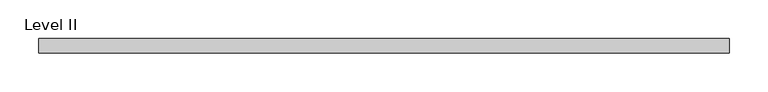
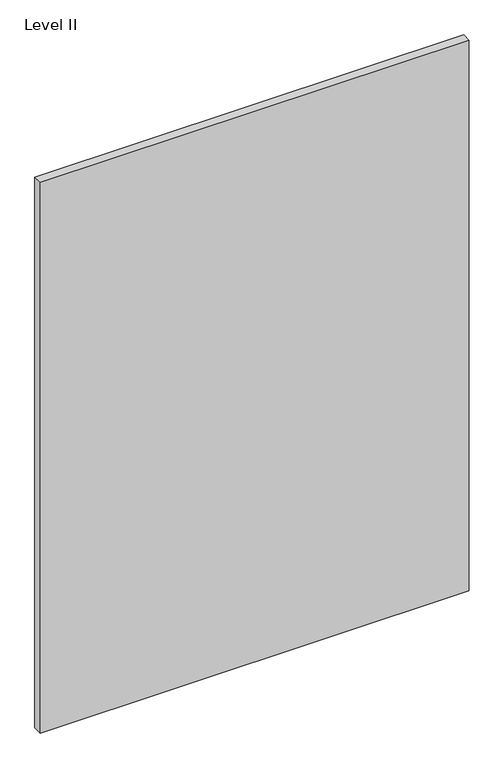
"""IFC4 building model written with IfcOpenShell, lengths in millimetres: proxy geometry, Panel-Fascia-Teknion-Altos-Standard : Level II."""

import ifcopenshell
import ifcopenshell.guid

model = None  # the IFC model being written
_history = None  # IfcOwnerHistory: only IFC2X3 demands one
_inside = {}  # id of a spatial element -> (the spatial element, [elements in it])
_under = {}  # id of a project, library or spatial element -> (it, [spatial elements below it])
_declared = {}  # id of a project -> (the project, [libraries it declares])
_typed = {}  # id of a type object -> (the type object, [elements of that type])
_made_of = {}  # id of a material, layer set ... -> (it, [elements and type objects made of it])


def new_model(schema):
    """Start an empty IFC model of exactly this schema.

    Asked for "IFC4X3", IfcOpenShell would pick the latest addendum, in which some entities
    have other attributes; the version numbers below select the first issue.
    IFC2X3 requires an IfcOwnerHistory on every rooted entity: one is made here for all.
    """
    global model, _history
    if schema == "IFC4X3":
        model = ifcopenshell.file(schema_version=(4, 3, 0, 0))
    else:
        model = ifcopenshell.file(schema=schema)
    _inside.clear()
    _under.clear()
    _declared.clear()
    _typed.clear()
    _made_of.clear()
    _history = None
    if model.schema == "IFC2X3":
        org = make("IfcOrganization", Name="unknown")
        user = make(
            "IfcPersonAndOrganization",
            ThePerson=make("IfcPerson", FamilyName="unknown"),
            TheOrganization=org,
        )
        app = make(
            "IfcApplication",
            ApplicationDeveloper=org,
            Version="unknown",
            ApplicationFullName="unknown",
            ApplicationIdentifier="unknown",
        )
        _history = make(
            "IfcOwnerHistory",
            OwningUser=user,
            OwningApplication=app,
            ChangeAction="ADDED",
            CreationDate=0,
        )
    return model


def make(cls, **values):
    """One entity of the class cls with the attributes given. An attribute that is None is left unset."""
    return model.create_entity(
        cls, **{name: value for name, value in values.items() if value is not None}
    )


def rooted(cls, **values):
    """An entity with a GlobalId (a new one), such as an element, a storey or a relation."""
    return make(cls, GlobalId=ifcopenshell.guid.new(), OwnerHistory=_history, **values)


def si_unit(unit_type, name, prefix=None):
    """IfcSIUnit, for example si_unit("LENGTHUNIT", "METRE", prefix="MILLI")."""
    return make("IfcSIUnit", UnitType=unit_type, Prefix=prefix, Name=name)


def assignment(units):
    """IfcUnitAssignment: the units of a project."""
    return None if units is None else make("IfcUnitAssignment", Units=units)


def point(xyz):
    """IfcCartesianPoint."""
    return None if xyz is None else make("IfcCartesianPoint", Coordinates=xyz)


def direction(xyz):
    """IfcDirection."""
    return None if xyz is None else make("IfcDirection", DirectionRatios=xyz)


def frame(location, z_axis=None, x_axis=None):
    """IfcAxis2Placement3D, a coordinate frame: its origin and axes. An axis left out is left unset."""
    return make(
        "IfcAxis2Placement3D",
        Location=point(location),
        Axis=direction(z_axis),
        RefDirection=direction(x_axis),
    )


def origin():
    """The frame at (0, 0, 0) with its axes left unset."""
    return frame((0.0, 0.0, 0.0))


def place(relative_to, where):
    """IfcLocalPlacement: puts the frame where relative to a parent placement (None: the world)."""
    return make(
        "IfcLocalPlacement", PlacementRelTo=relative_to, RelativePlacement=where
    )


def context(
    kind, dimensions, precision=None, world=None, true_north=None, identifier=None
):
    """IfcGeometricRepresentationContext, for example the 3D "Model" context."""
    return make(
        "IfcGeometricRepresentationContext",
        ContextIdentifier=identifier,
        ContextType=kind,
        CoordinateSpaceDimension=dimensions,
        Precision=precision,
        WorldCoordinateSystem=world,
        TrueNorth=true_north,
    )


def project(units=None, contexts=None):
    """IfcProject with its units and contexts."""
    return rooted(
        "IfcProject",
        Name="project",
        RepresentationContexts=contexts,
        UnitsInContext=assignment(units),
    )


def spatial(cls, under=None, at=None, **own):
    """A site, building, storey or space (cls), placed at a placement, below another one or the project."""
    s = rooted(cls, ObjectPlacement=at, **own)
    if under is not None:
        _under.setdefault(under.id(), (under, []))[1].append(s)
    return s


def polyline(points):
    """IfcPolyline through the points."""
    return make("IfcPolyline", Points=[point(p) for p in points])


def outline(outer, holes=None, kind="AREA"):
    """IfcArbitraryClosedProfileDef: a profile drawn as a closed curve; with holes, ...WithVoids."""
    if holes is None:
        return make("IfcArbitraryClosedProfileDef", ProfileType=kind, OuterCurve=outer)
    return make(
        "IfcArbitraryProfileDefWithVoids",
        ProfileType=kind,
        OuterCurve=outer,
        InnerCurves=holes,
    )


def extrude(swept, where, along, depth):
    """IfcExtrudedAreaSolid: the profile swept, set in the frame where, extruded along a direction by depth."""
    return make(
        "IfcExtrudedAreaSolid",
        SweptArea=swept,
        Position=where,
        ExtrudedDirection=direction(along),
        Depth=depth,
    )


def shape(context_of_items, identifier, shape_type, items):
    """IfcShapeRepresentation: the items that make up one representation, for example the "Body"."""
    return make(
        "IfcShapeRepresentation",
        ContextOfItems=context_of_items,
        RepresentationIdentifier=identifier,
        RepresentationType=shape_type,
        Items=items,
    )


def source(mapping_origin, context_of_items, identifier, shape_type, items):
    """IfcRepresentationMap: a shape defined once, which mapped items show again and again."""
    return make(
        "IfcRepresentationMap",
        MappingOrigin=mapping_origin,
        MappedRepresentation=shape(context_of_items, identifier, shape_type, items),
    )


def transform(
    local_origin,
    x_axis=None,
    y_axis=None,
    z_axis=None,
    scale=None,
    scale2=None,
    scale3=None,
    uniform=True,
):
    """IfcCartesianTransformationOperator3D, or its non-uniform kind. x_axis, y_axis, z_axis: its Axis1, 2, 3."""
    if uniform:
        return make(
            "IfcCartesianTransformationOperator3D",
            Axis1=direction(x_axis),
            Axis2=direction(y_axis),
            LocalOrigin=point(local_origin),
            Scale=scale,
            Axis3=direction(z_axis),
        )
    return make(
        "IfcCartesianTransformationOperator3DnonUniform",
        Axis1=direction(x_axis),
        Axis2=direction(y_axis),
        LocalOrigin=point(local_origin),
        Scale=scale,
        Axis3=direction(z_axis),
        Scale2=scale2,
        Scale3=scale3,
    )


def mapped(mapping_source, mapping_target):
    """IfcMappedItem: shows the shape of a source again, moved by a transform."""
    return make(
        "IfcMappedItem", MappingSource=mapping_source, MappingTarget=mapping_target
    )


def made_of(thing, what):
    """Note that an element or type object is made of a material, layer set ...; save() writes the relation."""
    if what is not None:
        _made_of.setdefault(what.id(), (what, []))[1].append(thing)
    return thing


def element(
    cls,
    number,
    at=None,
    inside=None,
    cuts=None,
    type_object=None,
    material=None,
    context=None,
    identifier="Body",
    shape_type=None,
    held_by="IfcProductDefinitionShape",
    body=None,
    shapes=None,
    **own,
):
    """One element of the class cls, such as IfcWall. Its Tag is "e" and its number.

    at: its placement. inside: the storey or other place that contains it. cuts: it is an
    opening in that element (IfcRelVoidsElement). A single representation is given by context,
    identifier, shape_type and body (its items); several are given by shapes. held_by: the class
    of the entity that holds the representations. save() writes the other relations.
    """
    e = rooted(cls, Tag="e%d" % number, ObjectPlacement=at, **own)
    if body is not None:
        shapes = [shape(context, identifier, shape_type, body)]
    if shapes is not None:
        e.Representation = make(held_by, Representations=shapes)
    if inside is not None:
        _inside.setdefault(inside.id(), (inside, []))[1].append(e)
    if cuts is not None:
        rooted(
            "IfcRelVoidsElement", RelatingBuildingElement=cuts, RelatedOpeningElement=e
        )
    if type_object is not None:
        _typed.setdefault(type_object.id(), (type_object, []))[1].append(e)
    return made_of(e, material)


def aggregate(whole, parts):
    """IfcRelAggregates: a whole, such as a stair, and the parts it consists of."""
    return rooted("IfcRelAggregates", RelatingObject=whole, RelatedObjects=parts)


def save(model, path):
    """Write the relations noted so far, then the file.

    IfcRelAggregates (storeys below a building ...), IfcRelContainedInSpatialStructure (elements
    in a storey), IfcRelDefinesByType, IfcRelAssociatesMaterial and IfcRelDeclares: one each for
    every whole, place, type object, material and project.
    """
    for whole, parts in _under.values():
        aggregate(whole, parts)
    for where, things in _inside.values():
        rooted(
            "IfcRelContainedInSpatialStructure",
            RelatedElements=things,
            RelatingStructure=where,
        )
    for kind, things in _typed.values():
        rooted("IfcRelDefinesByType", RelatedObjects=things, RelatingType=kind)
    for what, things in _made_of.values():
        rooted("IfcRelAssociatesMaterial", RelatedObjects=things, RelatingMaterial=what)
    for by, libraries in _declared.values():
        rooted("IfcRelDeclares", RelatingContext=by, RelatedDefinitions=libraries)
    model.write(path)


def level_ii_d92933f0(model_context):
    return source(origin(), model_context, "Body", "SweptSolid", [
        extrude(outline(polyline([(447.0300781, -9.525), (-447.0300781, -9.525), (-447.0300781, 9.525), (447.0300781, 9.525), (447.0300781, -9.525)])), frame((0.0, 0.0, 3.175), z_axis=(0.0, 0.0, 1.0), x_axis=(1.0, 0.0, 0.0)), (0.0, 0.0, 1.0), 1212.85),
    ])


if __name__ == "__main__":
    model = new_model("IFC4")
    model_context = context("Model", 3, world=origin())
    ifc_project = project(units=[si_unit("LENGTHUNIT", "METRE", prefix="MILLI")], contexts=[model_context])
    site = spatial("IfcSite", under=ifc_project)
    building = spatial("IfcBuilding", under=site)
    placement = place(None, origin())
    level_ii_shape = level_ii_d92933f0(model_context)
    element("IfcBuildingElementProxy", 1, Name="Panel-Fascia-Teknion-Altos-Standard : Level II", ObjectType="Panel-Fascia-Teknion-Altos-Standard : Level II", at=placement, inside=building, context=model_context, shape_type="MappedRepresentation", body=[
        mapped(level_ii_shape, transform((0.0, 0.0, 0.0), x_axis=(1.0, 0.0, 0.0), y_axis=(0.0, 1.0, 0.0), z_axis=(0.0, 0.0, 1.0))),
    ])
    save(model, "model.ifc")
